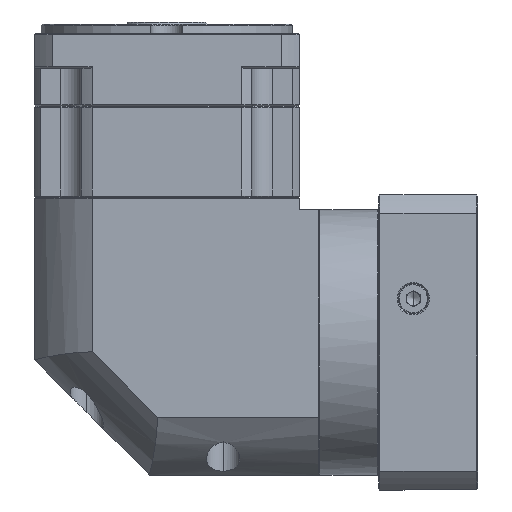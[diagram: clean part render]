
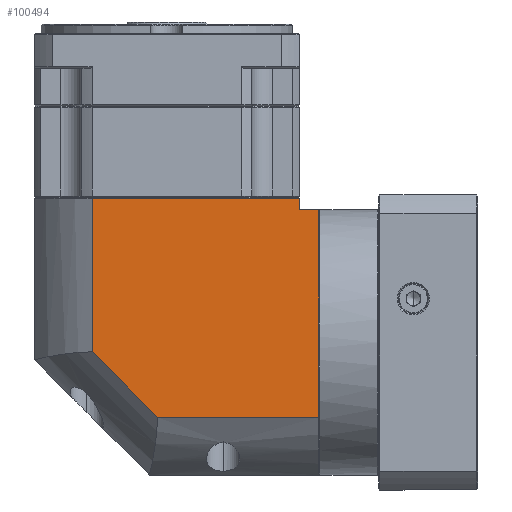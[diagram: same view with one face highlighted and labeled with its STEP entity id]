
A CAD part, left-side view. The second image highlights one B-rep face of the part: STEP entity #100494.
In plain terms, the highlighted planar face has unit normal (-1, 0, 0).
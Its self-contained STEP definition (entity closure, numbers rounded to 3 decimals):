
#1976 = CARTESIAN_POINT ( 'NONE',  ( -240.345, -13.382, 8.335 ) ) ;
#2540 = DIRECTION ( 'NONE',  ( 0., 0.707, 0.707 ) ) ;
#3871 = PLANE ( 'NONE',  #136993 ) ;
#4636 = CARTESIAN_POINT ( 'NONE',  ( -240.345, -74.943, 98.235 ) ) ;
#8539 = LINE ( 'NONE', #55392, #43173 ) ;
#12159 = CARTESIAN_POINT ( 'NONE',  ( -240.345, 40.057, 8.335 ) ) ;
#16191 = ORIENTED_EDGE ( 'NONE', *, *, #167696, .F. ) ;
#18642 = VERTEX_POINT ( 'NONE', #150635 ) ;
#19560 = VERTEX_POINT ( 'NONE', #28953 ) ;
#28504 = CARTESIAN_POINT ( 'NONE',  ( -240.345, 14.956, 36.673 ) ) ;
#28953 = CARTESIAN_POINT ( 'NONE',  ( -240.345, -74.943, 103.235 ) ) ;
#31919 = VERTEX_POINT ( 'NONE', #4636 ) ;
#32157 = CARTESIAN_POINT ( 'NONE',  ( -240.345, -83.343, 98.235 ) ) ;
#33078 = ORIENTED_EDGE ( 'NONE', *, *, #95268, .F. ) ;
#33150 = FACE_OUTER_BOUND ( 'NONE', #39468, .T. ) ;
#39323 = EDGE_CURVE ( 'NONE', #104394, #31919, #134761, .T. ) ;
#39468 = EDGE_LOOP ( 'NONE', ( #33078, #50758, #16191, #127577, #99472, #54122, #47782 ) ) ;
#39911 = VERTEX_POINT ( 'NONE', #28504 ) ;
#43173 = VECTOR ( 'NONE', #159102, 1000. ) ;
#47782 = ORIENTED_EDGE ( 'NONE', *, *, #79407, .F. ) ;
#50442 = DIRECTION ( 'NONE',  ( 0., 1., 0. ) ) ;
#50758 = ORIENTED_EDGE ( 'NONE', *, *, #155169, .F. ) ;
#52046 = DIRECTION ( 'NONE',  ( 0., 0., 1. ) ) ;
#54122 = ORIENTED_EDGE ( 'NONE', *, *, #157335, .T. ) ;
#55129 = DIRECTION ( 'NONE',  ( 0., 0., 1. ) ) ;
#55392 = CARTESIAN_POINT ( 'NONE',  ( -240.345, -83.343, 109.735 ) ) ;
#56231 = CARTESIAN_POINT ( 'NONE',  ( -240.345, 40.057, 109.735 ) ) ;
#58836 = LINE ( 'NONE', #71369, #89209 ) ;
#59077 = VECTOR ( 'NONE', #52046, 1000. ) ;
#63795 = VECTOR ( 'NONE', #55129, 1000. ) ;
#69169 = DIRECTION ( 'NONE',  ( 0., 1., 0. ) ) ;
#71369 = CARTESIAN_POINT ( 'NONE',  ( -240.345, 40.057, 103.235 ) ) ;
#79407 = EDGE_CURVE ( 'NONE', #115832, #19560, #58836, .T. ) ;
#89209 = VECTOR ( 'NONE', #162108, 1000. ) ;
#92215 = CARTESIAN_POINT ( 'NONE',  ( -240.345, 14.956, 103.235 ) ) ;
#94962 = LINE ( 'NONE', #12159, #125373 ) ;
#95268 = EDGE_CURVE ( 'NONE', #39911, #115832, #136779, .T. ) ;
#99472 = ORIENTED_EDGE ( 'NONE', *, *, #39323, .T. ) ;
#100281 = VECTOR ( 'NONE', #50442, 1000. ) ;
#100494 = ADVANCED_FACE ( 'NONE', ( #33150 ), #3871, .F. ) ;
#103008 = DIRECTION ( 'NONE',  ( 0., 1., 0. ) ) ;
#104394 = VERTEX_POINT ( 'NONE', #32157 ) ;
#108564 = EDGE_CURVE ( 'NONE', #104394, #18642, #8539, .T. ) ;
#114577 = VERTEX_POINT ( 'NONE', #126594 ) ;
#115832 = VERTEX_POINT ( 'NONE', #92215 ) ;
#119075 = LINE ( 'NONE', #1976, #149461 ) ;
#119688 = CARTESIAN_POINT ( 'NONE',  ( -240.345, 14.956, 109.735 ) ) ;
#125373 = VECTOR ( 'NONE', #103008, 1000. ) ;
#126594 = CARTESIAN_POINT ( 'NONE',  ( -240.345, -13.382, 8.335 ) ) ;
#127577 = ORIENTED_EDGE ( 'NONE', *, *, #108564, .F. ) ;
#132064 = LINE ( 'NONE', #168201, #59077 ) ;
#134761 = LINE ( 'NONE', #166618, #100281 ) ;
#136779 = LINE ( 'NONE', #119688, #63795 ) ;
#136993 = AXIS2_PLACEMENT_3D ( 'NONE', #56231, #146860, #69169 ) ;
#146860 = DIRECTION ( 'NONE',  ( 1., 0., 0. ) ) ;
#149461 = VECTOR ( 'NONE', #2540, 1000. ) ;
#150635 = CARTESIAN_POINT ( 'NONE',  ( -240.345, -83.343, 8.335 ) ) ;
#155169 = EDGE_CURVE ( 'NONE', #114577, #39911, #119075, .T. ) ;
#157335 = EDGE_CURVE ( 'NONE', #31919, #19560, #132064, .T. ) ;
#159102 = DIRECTION ( 'NONE',  ( 0., 0., -1. ) ) ;
#162108 = DIRECTION ( 'NONE',  ( 0., -1., 0. ) ) ;
#166618 = CARTESIAN_POINT ( 'NONE',  ( -240.345, -74.943, 98.235 ) ) ;
#167696 = EDGE_CURVE ( 'NONE', #18642, #114577, #94962, .T. ) ;
#168201 = CARTESIAN_POINT ( 'NONE',  ( -240.345, -74.943, -16.765 ) ) ;
